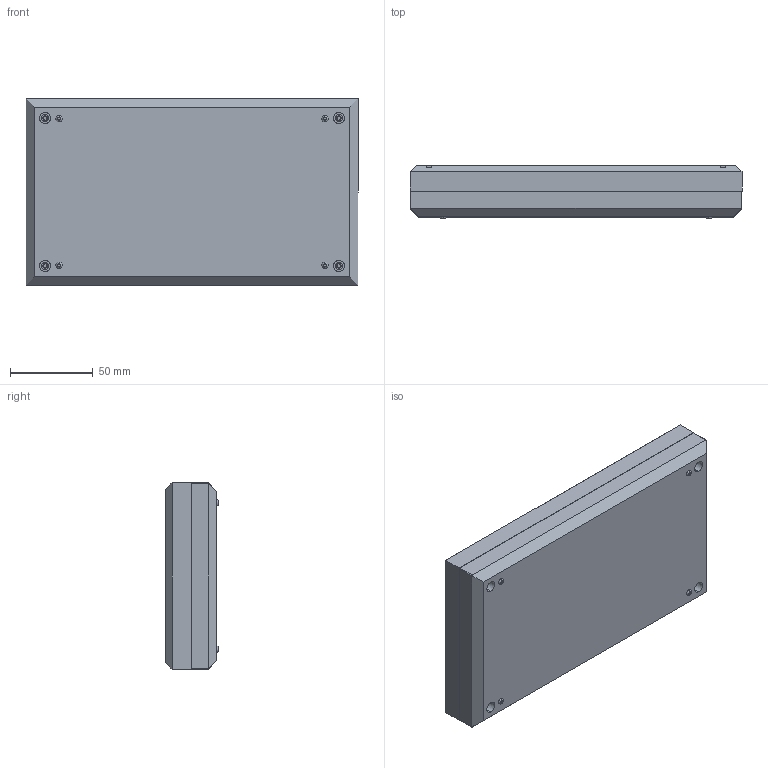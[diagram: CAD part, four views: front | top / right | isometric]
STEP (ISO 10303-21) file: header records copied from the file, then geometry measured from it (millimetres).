
FILE_DESCRIPTION (( 'STEP AP214' ), '1' );
FILE_NAME ('Conjunt PP63A.STEP', '2017-12-15T09:05:04', ( 'aaa' ), ( '' ), 'SwSTEP 2.0', 'SolidWorks 2013', '' );
FILE_SCHEMA (( 'AUTOMOTIVE_DESIGN' ));
Length unit declared in the file: millimetre
Products named in the file (7): Metrico 3 x 18 PP63A; Tapeta embellidor PP63A; Fijacion tornillo PP63A; Cargol 2,1x6,5 PP63A; Tapa PP63A; Cuerpo PP63A; Conjunt PP63A
Assembly tree (18 placements, depth 2):
  Conjunt PP63A
    Cuerpo PP63A
    Tapa PP63A
    Cargol 2,1x6,5 PP63A  x4
    Fijacion tornillo PP63A  x4
    Tapeta embellidor PP63A  x4
    Metrico 3 x 18 PP63A  x4
Bounding box: 200 x 32 x 112.2 mm (x, y, z)
Volume: 186666.8 mm3; surface area: 136136.9 mm2
Topology: 23 solids, 23 shells, 1313 faces, 2936 edges, 1732 vertices
Faces by surface type: cone 648, plane 385, cylinder 256, torus 24
Entity records: 16997 total; most frequent: DIRECTION 3064, CARTESIAN_POINT 2882, ORIENTED_EDGE 2700, EDGE_CURVE 1350, AXIS2_PLACEMENT_3D 1135, VERTEX_POINT 841, VECTOR 794, LINE 794
